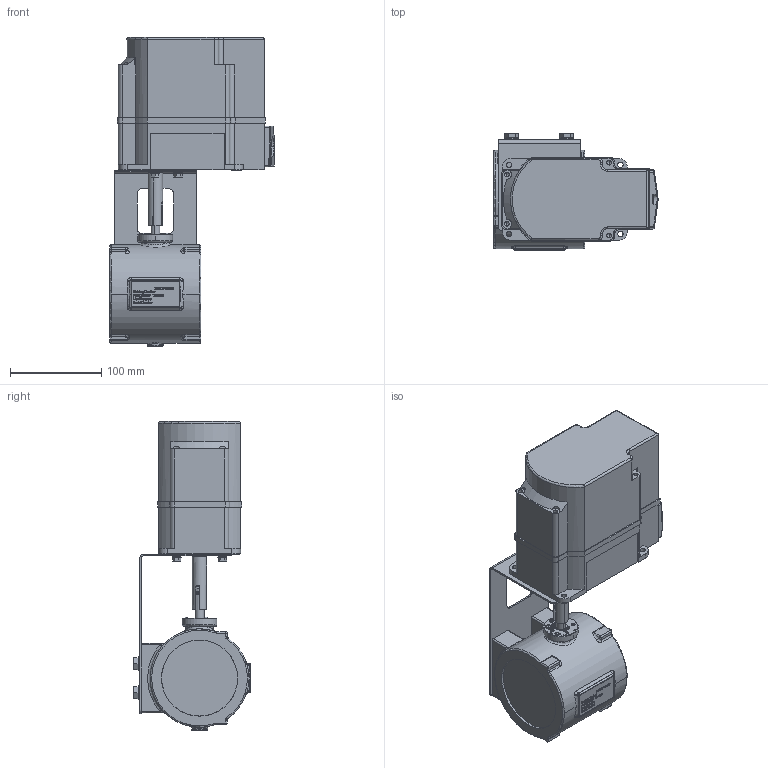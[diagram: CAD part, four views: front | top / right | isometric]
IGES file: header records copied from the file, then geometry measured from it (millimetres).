
Global section: file name: No Iges File Name specified; native system: AutoDesk Inventor R12.0; preprocessor: AutoDesk Inventor Iges Exporter R12.0; date: 20110328.095330; units: millimetre
Bounding box: 180.49 x 128.76 x 339 mm (x, y, z)
Volume: 2851841.8 mm3; surface area: 225822.5 mm2
Topology: 1 solids, 17 shells, 2921 faces, 7803 edges, 5070 vertices
Faces by surface type: plane 1512, bspline 1011, cylinder 191, revolution 103, cone 67, torus 23, sphere 14
Full cylindrical faces by diameter (mm): 9.2 x3, 14.8 x4
